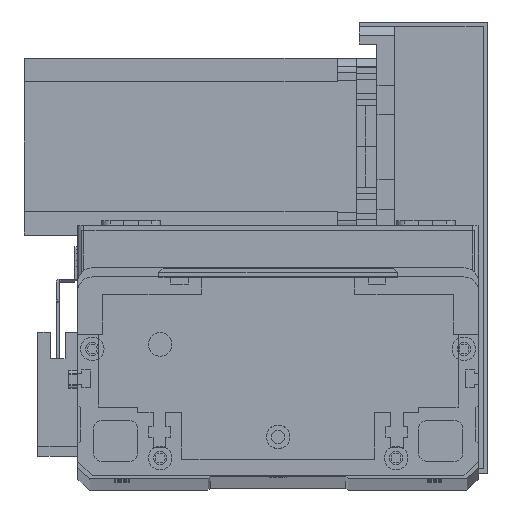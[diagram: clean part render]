
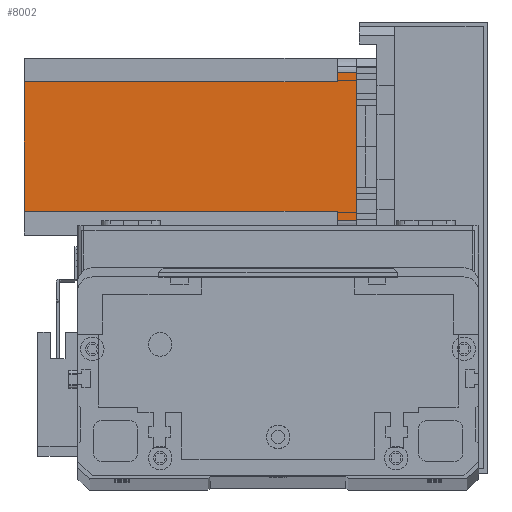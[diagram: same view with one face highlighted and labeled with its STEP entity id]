
A CAD part, top view. The second image highlights one B-rep face of the part: STEP entity #8002.
In plain terms, the highlighted planar face has unit normal (0, 0, 1) as drawn and (0, 1, 0) by its records, which use the part's own axes.
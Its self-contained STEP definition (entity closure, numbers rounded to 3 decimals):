
#507 = ORIENTED_EDGE ( 'NONE', *, *, #23230, .F. ) ;
#1276 = ORIENTED_EDGE ( 'NONE', *, *, #26836, .T. ) ;
#1617 = LINE ( 'NONE', #12958, #2385 ) ;
#1913 = ORIENTED_EDGE ( 'NONE', *, *, #28467, .F. ) ;
#2385 = VECTOR ( 'NONE', #17642, 1000. ) ;
#2623 = CARTESIAN_POINT ( 'NONE',  ( 52., 60., -6.5 ) ) ;
#2741 = ORIENTED_EDGE ( 'NONE', *, *, #2804, .F. ) ;
#2804 = EDGE_CURVE ( 'NONE', #25943, #16439, #16947, .T. ) ;
#2970 = CARTESIAN_POINT ( 'NONE',  ( 5., 60., -6.5 ) ) ;
#3754 = VECTOR ( 'NONE', #21574, 1000. ) ;
#4117 = DIRECTION ( 'NONE',  ( -1., 0., 0. ) ) ;
#4537 = LINE ( 'NONE', #2623, #3754 ) ;
#5871 = LINE ( 'NONE', #29248, #11476 ) ;
#6869 = CARTESIAN_POINT ( 'NONE',  ( 55., 60., -112.5 ) ) ;
#8002 = ADVANCED_FACE ( 'NONE', ( #8517 ), #27584, .T. ) ;
#8517 = FACE_OUTER_BOUND ( 'NONE', #26958, .T. ) ;
#8888 = DIRECTION ( 'NONE',  ( -1., 0., 0. ) ) ;
#9061 = CARTESIAN_POINT ( 'NONE',  ( 0., 60., 0. ) ) ;
#9523 = ORIENTED_EDGE ( 'NONE', *, *, #30345, .T. ) ;
#10013 = VERTEX_POINT ( 'NONE', #21780 ) ;
#10045 = VECTOR ( 'NONE', #8888, 1000. ) ;
#10093 = LINE ( 'NONE', #10696, #21726 ) ;
#10099 = VERTEX_POINT ( 'NONE', #19871 ) ;
#10696 = CARTESIAN_POINT ( 'NONE',  ( 8., 60., -112.5 ) ) ;
#11269 = DIRECTION ( 'NONE',  ( -1., 0., 0. ) ) ;
#11476 = VECTOR ( 'NONE', #4117, 1000. ) ;
#12468 = AXIS2_PLACEMENT_3D ( 'NONE', #25041, #22660, #22137 ) ;
#12958 = CARTESIAN_POINT ( 'NONE',  ( 5., 60., -112.5 ) ) ;
#13014 = DIRECTION ( 'NONE',  ( 0., 0., -1. ) ) ;
#14605 = LINE ( 'NONE', #6869, #26162 ) ;
#16439 = VERTEX_POINT ( 'NONE', #18960 ) ;
#16752 = ORIENTED_EDGE ( 'NONE', *, *, #29256, .T. ) ;
#16947 = LINE ( 'NONE', #9061, #10045 ) ;
#17315 = CARTESIAN_POINT ( 'NONE',  ( 8., 60., -6.5 ) ) ;
#17642 = DIRECTION ( 'NONE',  ( 0., 0., 1. ) ) ;
#18841 = LINE ( 'NONE', #25120, #30199 ) ;
#18946 = ORIENTED_EDGE ( 'NONE', *, *, #21841, .T. ) ;
#18960 = CARTESIAN_POINT ( 'NONE',  ( 5., 60., 0. ) ) ;
#19871 = CARTESIAN_POINT ( 'NONE',  ( 55., 60., -6.5 ) ) ;
#20970 = VECTOR ( 'NONE', #22759, 1000. ) ;
#20973 = DIRECTION ( 'NONE',  ( 0., 0., -1. ) ) ;
#21494 = VERTEX_POINT ( 'NONE', #17315 ) ;
#21574 = DIRECTION ( 'NONE',  ( 1., 0., 0. ) ) ;
#21726 = VECTOR ( 'NONE', #13014, 1000. ) ;
#21780 = CARTESIAN_POINT ( 'NONE',  ( 52., 60., -112.5 ) ) ;
#21841 = EDGE_CURVE ( 'NONE', #25943, #10099, #14605, .T. ) ;
#21951 = CARTESIAN_POINT ( 'NONE',  ( 8., 60., -112.5 ) ) ;
#22133 = VERTEX_POINT ( 'NONE', #21951 ) ;
#22137 = DIRECTION ( 'NONE',  ( 0., 0., 1. ) ) ;
#22234 = ORIENTED_EDGE ( 'NONE', *, *, #26034, .F. ) ;
#22660 = DIRECTION ( 'NONE',  ( 0., 1., 0. ) ) ;
#22759 = DIRECTION ( 'NONE',  ( 0., 0., 1. ) ) ;
#23230 = EDGE_CURVE ( 'NONE', #27697, #10099, #4537, .T. ) ;
#24666 = VERTEX_POINT ( 'NONE', #2970 ) ;
#25041 = CARTESIAN_POINT ( 'NONE',  ( 0., 60., -112.5 ) ) ;
#25120 = CARTESIAN_POINT ( 'NONE',  ( 8., 60., -6.5 ) ) ;
#25943 = VERTEX_POINT ( 'NONE', #27032 ) ;
#26034 = EDGE_CURVE ( 'NONE', #10013, #27697, #27045, .T. ) ;
#26073 = CARTESIAN_POINT ( 'NONE',  ( 52., 60., -6.5 ) ) ;
#26162 = VECTOR ( 'NONE', #20973, 1000. ) ;
#26836 = EDGE_CURVE ( 'NONE', #10013, #22133, #5871, .T. ) ;
#26958 = EDGE_LOOP ( 'NONE', ( #2741, #18946, #507, #22234, #1276, #1913, #16752, #9523 ) ) ;
#27032 = CARTESIAN_POINT ( 'NONE',  ( 55., 60., 0. ) ) ;
#27045 = LINE ( 'NONE', #29442, #20970 ) ;
#27584 = PLANE ( 'NONE',  #12468 ) ;
#27697 = VERTEX_POINT ( 'NONE', #26073 ) ;
#28467 = EDGE_CURVE ( 'NONE', #21494, #22133, #10093, .T. ) ;
#29248 = CARTESIAN_POINT ( 'NONE',  ( 0., 60., -112.5 ) ) ;
#29256 = EDGE_CURVE ( 'NONE', #21494, #24666, #18841, .T. ) ;
#29442 = CARTESIAN_POINT ( 'NONE',  ( 52., 60., -112.5 ) ) ;
#30199 = VECTOR ( 'NONE', #11269, 1000. ) ;
#30345 = EDGE_CURVE ( 'NONE', #24666, #16439, #1617, .T. ) ;
